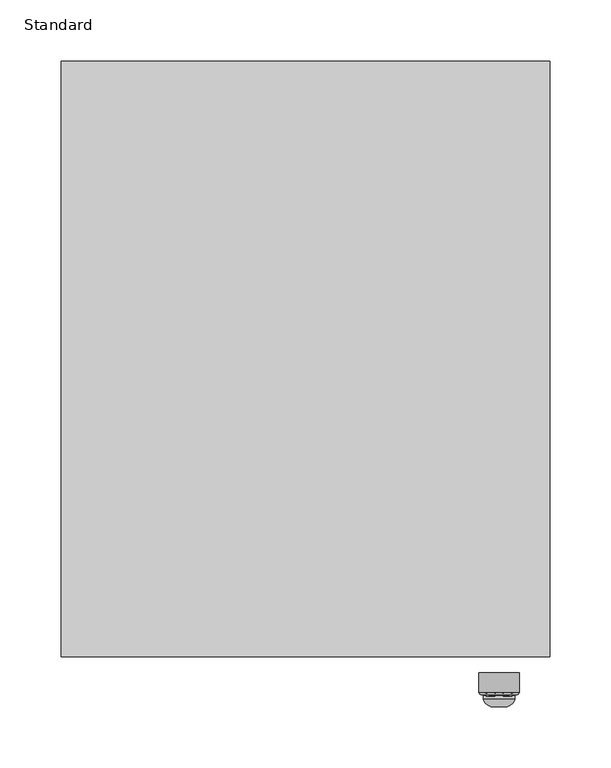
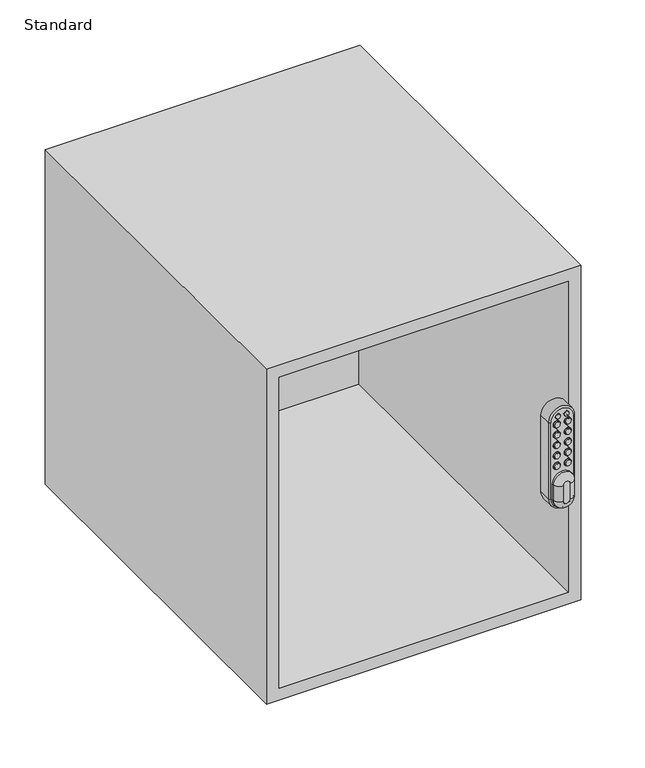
"""IFC4 building model written with IfcOpenShell, lengths in millimetres: furniture geometry, X_Locker-Duracube-Bay : Standard."""

from ifc_helpers import new_model, si_unit, point, frame, frame_2d, origin, place, context, project, spatial, polyline, circle_curve, ellipse_curve, trimmed, segment, composite_curve, outline, extrude, faceted_brep, source, transform, mapped, element, save
from ifc_brep_helpers import plane_surface, cylinder_surface, revolved_surface, advanced_brep


def standard_e2bbb5fc(model_context):
    return source(origin(), model_context, "Body", "SolidModel", [
        advanced_brep(
        [(207.7003264, -527.5, 173.5), (207.7003264, -527.5, 194.5), (198.7003264, -527.5, 194.5), (198.7003264, -527.5, 173.5), (216.2003264, -519.0, 194.5), (216.2003264, -519.0, 173.5), (190.2003264, -519.0, 173.5), (190.2003264, -519.0, 194.5), (207.7003264, -528.0, 173.5), (216.2003264, -522.0, 173.5), (216.2003264, -522.0, 194.5), (207.7003264, -528.0, 194.5), (190.2003264, -522.0, 194.5), (198.7003264, -528.0, 194.5), (190.2003264, -522.0, 173.5), (198.7003264, -528.0, 173.5)],
        [
            (0, 1),
            (1, 2, circle_curve(frame((203.2003264, -527.5, 194.5), z_axis=(0.0, -1.0, 0.0), x_axis=(1.0, 0.0, 0.0)), 4.5)),
            (2, 3),
            (3, 0, circle_curve(frame((203.2003264, -527.5, 173.5), z_axis=(0.0, -1.0, 0.0), x_axis=(-1.0, 0.0, 0.0)), 4.5)),
            (4, 5),
            (5, 6, circle_curve(frame((203.2003264, -519.0, 173.5), z_axis=(0.0, 1.0, 0.0), x_axis=(-1.0, 0.0, 0.0)), 13.0)),
            (6, 7),
            (7, 4, circle_curve(frame((203.2003264, -519.0, 194.5), z_axis=(0.0, 1.0, 0.0), x_axis=(1.0, 0.0, 0.0)), 13.0)),
            (8, 9, circle_curve(frame((207.7003264, -518.9791667, 173.5), z_axis=(0.0, 0.0, 1.0), x_axis=(-1.0, 0.0, 0.0)), 9.0208333)),
            (9, 10),
            (10, 11, circle_curve(frame((207.7003264, -518.9791667, 194.5), z_axis=(0.0, 0.0, -1.0), x_axis=(-1.0, 0.0, 0.0)), 9.0208333)),
            (11, 8),
            (11, 1),
            (0, 8),
            (9, 5),
            (4, 10),
            (10, 12, circle_curve(frame((203.2003264, -522.0, 194.5), z_axis=(0.0, -1.0, 0.0), x_axis=(1.0, 0.0, 0.0)), 13.0)),
            (12, 13, circle_curve(frame((198.7003264, -518.9791667, 194.5), z_axis=(0.0, 0.0, 1.0), x_axis=(1.0, 0.0, 0.0)), 9.0208333)),
            (13, 11, circle_curve(frame((203.2003264, -528.0, 194.5), z_axis=(0.0, 1.0, 0.0), x_axis=(1.0, 0.0, 0.0)), 4.5)),
            (13, 2),
            (7, 12),
            (12, 14),
            (14, 15, circle_curve(frame((198.7003264, -518.9791667, 173.5), z_axis=(0.0, 0.0, 1.0), x_axis=(1.0, 0.0, 0.0)), 9.0208333)),
            (15, 13),
            (15, 3),
            (6, 14),
            (8, 15, circle_curve(frame((203.2003264, -528.0, 173.5), z_axis=(0.0, 1.0, 0.0), x_axis=(-1.0, 0.0, 0.0)), 4.5)),
            (14, 9, circle_curve(frame((203.2003264, -522.0, 173.5), z_axis=(0.0, -1.0, 0.0), x_axis=(-1.0, 0.0, 0.0)), 13.0)),
        ],
        [
            plane_surface(frame((198.7003264, -527.5, 169.0), z_axis=(0.0, -1.0, 0.0), x_axis=(0.0, 0.0, -1.0))),
            plane_surface(frame((198.7003264, -519.0, 169.0), z_axis=(0.0, 1.0, 0.0), x_axis=(0.0, 0.0, 1.0))),
            cylinder_surface(frame((207.7003264, -518.9791667, 173.5), z_axis=(0.0, 0.0, -1.0), x_axis=(-1.0, 0.0, 0.0)), 9.0208333),
            plane_surface(frame((207.7003264, -528.0, 173.5), z_axis=(-1.0, 0.0, 0.0), x_axis=(0.0, 0.0, 1.0))),
            plane_surface(frame((216.2003264, -519.0, 173.5), z_axis=(1.0, 0.0, 0.0), x_axis=(0.0, 0.0, 1.0))),
            revolved_surface(trimmed(ellipse_curve(frame((207.7003264, -518.9791667, 194.5), z_axis=(0.0, 0.0, -1.0), x_axis=(-1.0, 0.0, 0.0)), 9.0208333, 9.0208333), [point((216.2003264, -522.0, 194.5))], [point((207.7003264, -528.0, 194.5))], True, "CARTESIAN"), (203.2003264, -500.0, 194.5), (0.0, -1.0, 0.0)),
            revolved_surface(polyline([(207.7003264, -528.0, 194.5), (207.7003264, -527.5, 194.5)]), (203.2003264, -500.0, 194.5), (0.0, -1.0, 0.0)),
            cylinder_surface(frame((203.2003264, -500.0, 194.5), z_axis=(0.0, -1.0, 0.0), x_axis=(1.0, 0.0, 0.0)), 13.0),
            cylinder_surface(frame((198.7003264, -518.9791667, 194.5), z_axis=(0.0, 0.0, 1.0), x_axis=(1.0, 0.0, 0.0)), 9.0208333),
            plane_surface(frame((198.7003264, -528.0, 194.5), z_axis=(1.0, 0.0, 0.0), x_axis=(0.0, 0.0, -1.0))),
            plane_surface(frame((190.2003264, -519.0, 194.5), z_axis=(-1.0, 0.0, 0.0), x_axis=(0.0, 0.0, -1.0))),
            revolved_surface(trimmed(ellipse_curve(frame((198.7003264, -518.9791667, 173.5), z_axis=(0.0, 0.0, 1.0), x_axis=(1.0, 0.0, 0.0)), 9.0208333, 9.0208333), [point((190.2003264, -522.0, 173.5))], [point((198.7003264, -528.0, 173.5))], True, "CARTESIAN"), (203.2003264, -500.0, 173.5), (0.0, -1.0, 0.0)),
            revolved_surface(polyline([(198.7003264, -528.0, 173.5), (198.7003264, -527.5, 173.5)]), (203.2003264, -500.0, 173.5), (0.0, -1.0, 0.0)),
            cylinder_surface(frame((203.2003264, -500.0, 173.5), z_axis=(0.0, -1.0, 0.0), x_axis=(-1.0, 0.0, 0.0)), 13.0),
        ],
        [
            (0, [[1, 2, 3, 4]]),
            (1, [[5, 6, 7, 8]]),
            (2, [[9, 10, 11, 12]]),
            (3, [[-12, 13, -1, 14]]),
            (4, [[-10, 15, -5, 16]]),
            (5, [[-11, 17, 18, 19]]),
            (6, [[-19, 20, -2, -13]]),
            (7, [[-16, -8, 21, -17]]),
            (8, [[-18, 22, 23, 24]]),
            (9, [[-24, 25, -3, -20]]),
            (10, [[-21, -7, 26, -22]]),
            (11, [[-9, 27, -23, 28]]),
            (12, [[-27, -14, -4, -25]]),
            (13, [[-15, -28, -26, -6]]),
        ],
    ),
        extrude(outline(composite_curve([segment(trimmed(circle_curve(frame_2d((282.0, 197.7003264)), 3.0), [point((282.0, 200.7003264))], [point((282.0, 194.7003264))], False, "CARTESIAN"), True, "CONTINUOUS"), segment(trimmed(circle_curve(frame_2d((282.0, 197.7003264)), 3.0), [point((282.0, 194.7003264))], [point((282.0, 200.7003264))], False, "CARTESIAN"), True, "CONTINUOUS")], self_intersect=False)), frame((0.0, -518.5, 0.0), z_axis=(0.0, 1.0, 0.0), x_axis=(0.0, 0.0, 1.0)), (0.0, 0.0, 1.0), 18.5),
        extrude(outline(composite_curve([segment(trimmed(circle_curve(frame_2d((282.0, 208.7003264)), 3.0), [point((282.0, 205.7003264))], [point((282.0, 211.7003264))], False, "CARTESIAN"), True, "CONTINUOUS"), segment(trimmed(circle_curve(frame_2d((282.0, 208.7003264)), 3.0), [point((282.0, 211.7003264))], [point((282.0, 205.7003264))], False, "CARTESIAN"), True, "CONTINUOUS")], self_intersect=False)), frame((0.0, -518.5, 0.0), z_axis=(0.0, 1.0, 0.0), x_axis=(0.0, 0.0, 1.0)), (0.0, 0.0, 1.0), 18.5),
        extrude(outline(composite_curve([segment(trimmed(circle_curve(frame_2d((216.0, 210.2003264)), 3.5), [point((216.0, 206.7003264))], [point((216.0, 213.7003264))], False, "CARTESIAN"), True, "CONTINUOUS"), segment(trimmed(circle_curve(frame_2d((216.0, 210.2003264)), 3.5), [point((216.0, 213.7003264))], [point((216.0, 206.7003264))], False, "CARTESIAN"), True, "CONTINUOUS")], self_intersect=False)), frame((0.0, -519.5, 0.0), z_axis=(0.0, 1.0, 0.0), x_axis=(0.0, 0.0, 1.0)), (0.0, 0.0, 1.0), 2.0),
        extrude(outline(composite_curve([segment(trimmed(circle_curve(frame_2d((216.0, 196.2003264)), 3.5), [point((216.0, 192.7003264))], [point((216.0, 199.7003264))], False, "CARTESIAN"), True, "CONTINUOUS"), segment(trimmed(circle_curve(frame_2d((216.0, 196.2003264)), 3.5), [point((216.0, 199.7003264))], [point((216.0, 192.7003264))], False, "CARTESIAN"), True, "CONTINUOUS")], self_intersect=False)), frame((0.0, -519.5, 0.0), z_axis=(0.0, 1.0, 0.0), x_axis=(0.0, 0.0, 1.0)), (0.0, 0.0, 1.0), 2.0),
        extrude(outline(composite_curve([segment(trimmed(circle_curve(frame_2d((230.0, 210.2003264)), 3.5), [point((230.0, 206.7003264))], [point((230.0, 213.7003264))], False, "CARTESIAN"), True, "CONTINUOUS"), segment(trimmed(circle_curve(frame_2d((230.0, 210.2003264)), 3.5), [point((230.0, 213.7003264))], [point((230.0, 206.7003264))], False, "CARTESIAN"), True, "CONTINUOUS")], self_intersect=False)), frame((0.0, -519.5, 0.0), z_axis=(0.0, 1.0, 0.0), x_axis=(0.0, 0.0, 1.0)), (0.0, 0.0, 1.0), 2.0),
        extrude(outline(composite_curve([segment(trimmed(circle_curve(frame_2d((230.0, 196.2003264)), 3.5), [point((230.0, 192.7003264))], [point((230.0, 199.7003264))], False, "CARTESIAN"), True, "CONTINUOUS"), segment(trimmed(circle_curve(frame_2d((230.0, 196.2003264)), 3.5), [point((230.0, 199.7003264))], [point((230.0, 192.7003264))], False, "CARTESIAN"), True, "CONTINUOUS")], self_intersect=False)), frame((0.0, -519.5, 0.0), z_axis=(0.0, 1.0, 0.0), x_axis=(0.0, 0.0, 1.0)), (0.0, 0.0, 1.0), 2.0),
        extrude(outline(composite_curve([segment(trimmed(circle_curve(frame_2d((244.0, 210.2003264)), 3.5), [point((244.0, 206.7003264))], [point((244.0, 213.7003264))], False, "CARTESIAN"), True, "CONTINUOUS"), segment(trimmed(circle_curve(frame_2d((244.0, 210.2003264)), 3.5), [point((244.0, 213.7003264))], [point((244.0, 206.7003264))], False, "CARTESIAN"), True, "CONTINUOUS")], self_intersect=False)), frame((0.0, -519.5, 0.0), z_axis=(0.0, 1.0, 0.0), x_axis=(0.0, 0.0, 1.0)), (0.0, 0.0, 1.0), 2.0),
        extrude(outline(composite_curve([segment(trimmed(circle_curve(frame_2d((244.0, 196.2003264)), 3.5), [point((244.0, 192.7003264))], [point((244.0, 199.7003264))], False, "CARTESIAN"), True, "CONTINUOUS"), segment(trimmed(circle_curve(frame_2d((244.0, 196.2003264)), 3.5), [point((244.0, 199.7003264))], [point((244.0, 192.7003264))], False, "CARTESIAN"), True, "CONTINUOUS")], self_intersect=False)), frame((0.0, -519.5, 0.0), z_axis=(0.0, 1.0, 0.0), x_axis=(0.0, 0.0, 1.0)), (0.0, 0.0, 1.0), 2.0),
        extrude(outline(composite_curve([segment(trimmed(circle_curve(frame_2d((258.0, 210.2003264)), 3.5), [point((258.0, 206.7003264))], [point((258.0, 213.7003264))], False, "CARTESIAN"), True, "CONTINUOUS"), segment(trimmed(circle_curve(frame_2d((258.0, 210.2003264)), 3.5), [point((258.0, 213.7003264))], [point((258.0, 206.7003264))], False, "CARTESIAN"), True, "CONTINUOUS")], self_intersect=False)), frame((0.0, -519.5, 0.0), z_axis=(0.0, 1.0, 0.0), x_axis=(0.0, 0.0, 1.0)), (0.0, 0.0, 1.0), 2.0),
        extrude(outline(composite_curve([segment(trimmed(circle_curve(frame_2d((258.0, 196.2003264)), 3.5), [point((258.0, 192.7003264))], [point((258.0, 199.7003264))], False, "CARTESIAN"), True, "CONTINUOUS"), segment(trimmed(circle_curve(frame_2d((258.0, 196.2003264)), 3.5), [point((258.0, 199.7003264))], [point((258.0, 192.7003264))], False, "CARTESIAN"), True, "CONTINUOUS")], self_intersect=False)), frame((0.0, -519.5, 0.0), z_axis=(0.0, 1.0, 0.0), x_axis=(0.0, 0.0, 1.0)), (0.0, 0.0, 1.0), 2.0),
        extrude(outline(composite_curve([segment(trimmed(circle_curve(frame_2d((272.0, 210.2003264)), 3.5), [point((272.0, 206.7003264))], [point((272.0, 213.7003264))], False, "CARTESIAN"), True, "CONTINUOUS"), segment(trimmed(circle_curve(frame_2d((272.0, 210.2003264)), 3.5), [point((272.0, 213.7003264))], [point((272.0, 206.7003264))], False, "CARTESIAN"), True, "CONTINUOUS")], self_intersect=False)), frame((0.0, -519.5, 0.0), z_axis=(0.0, 1.0, 0.0), x_axis=(0.0, 0.0, 1.0)), (0.0, 0.0, 1.0), 2.0),
        extrude(outline(composite_curve([segment(trimmed(circle_curve(frame_2d((272.0, 196.2003264)), 3.5), [point((272.0, 192.7003264))], [point((272.0, 199.7003264))], False, "CARTESIAN"), True, "CONTINUOUS"), segment(trimmed(circle_curve(frame_2d((272.0, 196.2003264)), 3.5), [point((272.0, 199.7003264))], [point((272.0, 192.7003264))], False, "CARTESIAN"), True, "CONTINUOUS")], self_intersect=False)), frame((0.0, -519.5, 0.0), z_axis=(0.0, 1.0, 0.0), x_axis=(0.0, 0.0, 1.0)), (0.0, 0.0, 1.0), 2.0),
        advanced_brep(
        [(210.2003264, -500.0, 272.0), (210.2003264, -500.0, 276.5), (210.2003264, -500.0, 267.5), (210.2003264, -517.5, 276.5), (210.2003264, -517.5, 267.5), (210.2003264, -517.0, 272.0)],
        [
            (0, 1),
            (1, 2, circle_curve(frame((210.2003264, -500.0, 272.0), z_axis=(0.0, 1.0, 0.0), x_axis=(0.0, 0.0, 1.0)), 4.5)),
            (2, 0),
            (2, 1, circle_curve(frame((210.2003264, -500.0, 272.0), z_axis=(0.0, 1.0, 0.0), x_axis=(0.0, 0.0, 1.0)), 4.5)),
            (1, 3),
            (3, 4, circle_curve(frame((210.2003264, -517.5, 272.0), z_axis=(0.0, 1.0, 0.0), x_axis=(0.0, 0.0, 1.0)), 4.5)),
            (4, 2),
            (4, 3, circle_curve(frame((210.2003264, -517.5, 272.0), z_axis=(0.0, 1.0, 0.0), x_axis=(0.0, 0.0, 1.0)), 4.5)),
            (3, 5),
            (5, 4),
        ],
        [
            plane_surface(frame((210.2003264, -500.0, 272.0), z_axis=(0.0, 1.0, 0.0), x_axis=(0.0, 0.0, 1.0))),
            cylinder_surface(frame((210.2003264, -500.0, 272.0), z_axis=(0.0, 1.0, 0.0), x_axis=(0.0, 0.0, 1.0)), 4.5),
            revolved_surface(polyline([(210.2003264, -517.0, 272.0), (210.2003264, -517.5, 276.5)]), (210.2003264, -500.0, 272.0), (0.0, 1.0, 0.0)),
        ],
        [
            (0, [[1, 2, 3]]),
            (0, [[-3, 4, -1]]),
            (1, [[-2, 5, 6, 7]]),
            (1, [[-4, -7, 8, -5]]),
            (2, [[-6, 9, 10]]),
            (2, [[-8, -10, -9]]),
        ],
    ),
        advanced_brep(
        [(210.2003264, -500.0, 258.0), (210.2003264, -500.0, 262.5), (210.2003264, -500.0, 253.5), (210.2003264, -517.5, 262.5), (210.2003264, -517.5, 253.5), (210.2003264, -517.0, 258.0)],
        [
            (0, 1),
            (1, 2, circle_curve(frame((210.2003264, -500.0, 258.0), z_axis=(0.0, 1.0, 0.0), x_axis=(0.0, 0.0, 1.0)), 4.5)),
            (2, 0),
            (2, 1, circle_curve(frame((210.2003264, -500.0, 258.0), z_axis=(0.0, 1.0, 0.0), x_axis=(0.0, 0.0, 1.0)), 4.5)),
            (1, 3),
            (3, 4, circle_curve(frame((210.2003264, -517.5, 258.0), z_axis=(0.0, 1.0, 0.0), x_axis=(0.0, 0.0, 1.0)), 4.5)),
            (4, 2),
            (4, 3, circle_curve(frame((210.2003264, -517.5, 258.0), z_axis=(0.0, 1.0, 0.0), x_axis=(0.0, 0.0, 1.0)), 4.5)),
            (3, 5),
            (5, 4),
        ],
        [
            plane_surface(frame((210.2003264, -500.0, 258.0), z_axis=(0.0, 1.0, 0.0), x_axis=(0.0, 0.0, 1.0))),
            cylinder_surface(frame((210.2003264, -500.0, 258.0), z_axis=(0.0, 1.0, 0.0), x_axis=(0.0, 0.0, 1.0)), 4.5),
            revolved_surface(polyline([(210.2003264, -517.0, 258.0), (210.2003264, -517.5, 262.5)]), (210.2003264, -500.0, 258.0), (0.0, 1.0, 0.0)),
        ],
        [
            (0, [[1, 2, 3]]),
            (0, [[-3, 4, -1]]),
            (1, [[-2, 5, 6, 7]]),
            (1, [[-4, -7, 8, -5]]),
            (2, [[-6, 9, 10]]),
            (2, [[-8, -10, -9]]),
        ],
    ),
        advanced_brep(
        [(210.2003264, -500.0, 244.0), (210.2003264, -500.0, 248.5), (210.2003264, -500.0, 239.5), (210.2003264, -517.5, 248.5), (210.2003264, -517.5, 239.5), (210.2003264, -517.0, 244.0)],
        [
            (0, 1),
            (1, 2, circle_curve(frame((210.2003264, -500.0, 244.0), z_axis=(0.0, 1.0, 0.0), x_axis=(0.0, 0.0, 1.0)), 4.5)),
            (2, 0),
            (2, 1, circle_curve(frame((210.2003264, -500.0, 244.0), z_axis=(0.0, 1.0, 0.0), x_axis=(0.0, 0.0, 1.0)), 4.5)),
            (1, 3),
            (3, 4, circle_curve(frame((210.2003264, -517.5, 244.0), z_axis=(0.0, 1.0, 0.0), x_axis=(0.0, 0.0, 1.0)), 4.5)),
            (4, 2),
            (4, 3, circle_curve(frame((210.2003264, -517.5, 244.0), z_axis=(0.0, 1.0, 0.0), x_axis=(0.0, 0.0, 1.0)), 4.5)),
            (3, 5),
            (5, 4),
        ],
        [
            plane_surface(frame((210.2003264, -500.0, 244.0), z_axis=(0.0, 1.0, 0.0), x_axis=(0.0, 0.0, 1.0))),
            cylinder_surface(frame((210.2003264, -500.0, 244.0), z_axis=(0.0, 1.0, 0.0), x_axis=(0.0, 0.0, 1.0)), 4.5),
            revolved_surface(polyline([(210.2003264, -517.0, 244.0), (210.2003264, -517.5, 248.5)]), (210.2003264, -500.0, 244.0), (0.0, 1.0, 0.0)),
        ],
        [
            (0, [[1, 2, 3]]),
            (0, [[-3, 4, -1]]),
            (1, [[-2, 5, 6, 7]]),
            (1, [[-4, -7, 8, -5]]),
            (2, [[-6, 9, 10]]),
            (2, [[-8, -10, -9]]),
        ],
    ),
        advanced_brep(
        [(210.2003264, -500.0, 230.0), (210.2003264, -500.0, 234.5), (210.2003264, -500.0, 225.5), (210.2003264, -517.5, 234.5), (210.2003264, -517.5, 225.5), (210.2003264, -517.0, 230.0)],
        [
            (0, 1),
            (1, 2, circle_curve(frame((210.2003264, -500.0, 230.0), z_axis=(0.0, 1.0, 0.0), x_axis=(0.0, 0.0, 1.0)), 4.5)),
            (2, 0),
            (2, 1, circle_curve(frame((210.2003264, -500.0, 230.0), z_axis=(0.0, 1.0, 0.0), x_axis=(0.0, 0.0, 1.0)), 4.5)),
            (1, 3),
            (3, 4, circle_curve(frame((210.2003264, -517.5, 230.0), z_axis=(0.0, 1.0, 0.0), x_axis=(0.0, 0.0, 1.0)), 4.5)),
            (4, 2),
            (4, 3, circle_curve(frame((210.2003264, -517.5, 230.0), z_axis=(0.0, 1.0, 0.0), x_axis=(0.0, 0.0, 1.0)), 4.5)),
            (3, 5),
            (5, 4),
        ],
        [
            plane_surface(frame((210.2003264, -500.0, 230.0), z_axis=(0.0, 1.0, 0.0), x_axis=(0.0, 0.0, 1.0))),
            cylinder_surface(frame((210.2003264, -500.0, 230.0), z_axis=(0.0, 1.0, 0.0), x_axis=(0.0, 0.0, 1.0)), 4.5),
            revolved_surface(polyline([(210.2003264, -517.0, 230.0), (210.2003264, -517.5, 234.5)]), (210.2003264, -500.0, 230.0), (0.0, 1.0, 0.0)),
        ],
        [
            (0, [[1, 2, 3]]),
            (0, [[-3, 4, -1]]),
            (1, [[-2, 5, 6, 7]]),
            (1, [[-4, -7, 8, -5]]),
            (2, [[-6, 9, 10]]),
            (2, [[-8, -10, -9]]),
        ],
    ),
        advanced_brep(
        [(210.2003264, -500.0, 216.0), (210.2003264, -500.0, 220.5), (210.2003264, -500.0, 211.5), (210.2003264, -517.5, 220.5), (210.2003264, -517.5, 211.5), (210.2003264, -517.0, 216.0)],
        [
            (0, 1),
            (1, 2, circle_curve(frame((210.2003264, -500.0, 216.0), z_axis=(0.0, 1.0, 0.0), x_axis=(0.0, 0.0, 1.0)), 4.5)),
            (2, 0),
            (2, 1, circle_curve(frame((210.2003264, -500.0, 216.0), z_axis=(0.0, 1.0, 0.0), x_axis=(0.0, 0.0, 1.0)), 4.5)),
            (1, 3),
            (3, 4, circle_curve(frame((210.2003264, -517.5, 216.0), z_axis=(0.0, 1.0, 0.0), x_axis=(0.0, 0.0, 1.0)), 4.5)),
            (4, 2),
            (4, 3, circle_curve(frame((210.2003264, -517.5, 216.0), z_axis=(0.0, 1.0, 0.0), x_axis=(0.0, 0.0, 1.0)), 4.5)),
            (3, 5),
            (5, 4),
        ],
        [
            plane_surface(frame((210.2003264, -500.0, 216.0), z_axis=(0.0, 1.0, 0.0), x_axis=(0.0, 0.0, 1.0))),
            cylinder_surface(frame((210.2003264, -500.0, 216.0), z_axis=(0.0, 1.0, 0.0), x_axis=(0.0, 0.0, 1.0)), 4.5),
            revolved_surface(polyline([(210.2003264, -517.0, 216.0), (210.2003264, -517.5, 220.5)]), (210.2003264, -500.0, 216.0), (0.0, 1.0, 0.0)),
        ],
        [
            (0, [[1, 2, 3]]),
            (0, [[-3, 4, -1]]),
            (1, [[-2, 5, 6, 7]]),
            (1, [[-4, -7, 8, -5]]),
            (2, [[-6, 9, 10]]),
            (2, [[-8, -10, -9]]),
        ],
    ),
        advanced_brep(
        [(196.2003264, -500.0, 267.5), (196.2003264, -500.0, 276.5), (196.2003264, -500.0, 272.0), (196.2003264, -517.5, 267.5), (196.2003264, -517.5, 276.5), (196.2003264, -517.0, 272.0)],
        [
            (0, 1, circle_curve(frame((196.2003264, -500.0, 272.0), z_axis=(0.0, 1.0, 0.0), x_axis=(0.0, 0.0, 1.0)), 4.5)),
            (1, 2),
            (2, 0),
            (1, 0, circle_curve(frame((196.2003264, -500.0, 272.0), z_axis=(0.0, 1.0, 0.0), x_axis=(0.0, 0.0, 1.0)), 4.5)),
            (3, 4, circle_curve(frame((196.2003264, -517.5, 272.0), z_axis=(0.0, 1.0, 0.0), x_axis=(0.0, 0.0, 1.0)), 4.5)),
            (4, 1),
            (0, 3),
            (4, 3, circle_curve(frame((196.2003264, -517.5, 272.0), z_axis=(0.0, 1.0, 0.0), x_axis=(0.0, 0.0, 1.0)), 4.5)),
            (5, 4),
            (3, 5),
        ],
        [
            plane_surface(frame((196.2003264, -500.0, 272.0), z_axis=(0.0, 1.0, 0.0), x_axis=(0.0, 0.0, 1.0))),
            cylinder_surface(frame((196.2003264, -500.0, 272.0), z_axis=(0.0, -1.0, 0.0), x_axis=(0.0, 0.0, 1.0)), 4.5),
            revolved_surface(polyline([(196.2003264, -517.5, 276.5), (196.2003264, -517.0, 272.0)]), (196.2003264, -500.0, 272.0), (0.0, -1.0, 0.0)),
        ],
        [
            (0, [[1, 2, 3]]),
            (0, [[4, -3, -2]]),
            (1, [[5, 6, -1, 7]]),
            (1, [[8, -7, -4, -6]]),
            (2, [[9, -5, 10]]),
            (2, [[-10, -8, -9]]),
        ],
    ),
        advanced_brep(
        [(196.2003264, -500.0, 253.5), (196.2003264, -500.0, 262.5), (196.2003264, -500.0, 258.0), (196.2003264, -517.5, 253.5), (196.2003264, -517.5, 262.5), (196.2003264, -517.0, 258.0)],
        [
            (0, 1, circle_curve(frame((196.2003264, -500.0, 258.0), z_axis=(0.0, 1.0, 0.0), x_axis=(0.0, 0.0, 1.0)), 4.5)),
            (1, 2),
            (2, 0),
            (1, 0, circle_curve(frame((196.2003264, -500.0, 258.0), z_axis=(0.0, 1.0, 0.0), x_axis=(0.0, 0.0, 1.0)), 4.5)),
            (3, 4, circle_curve(frame((196.2003264, -517.5, 258.0), z_axis=(0.0, 1.0, 0.0), x_axis=(0.0, 0.0, 1.0)), 4.5)),
            (4, 1),
            (0, 3),
            (4, 3, circle_curve(frame((196.2003264, -517.5, 258.0), z_axis=(0.0, 1.0, 0.0), x_axis=(0.0, 0.0, 1.0)), 4.5)),
            (5, 4),
            (3, 5),
        ],
        [
            plane_surface(frame((196.2003264, -500.0, 258.0), z_axis=(0.0, 1.0, 0.0), x_axis=(0.0, 0.0, 1.0))),
            cylinder_surface(frame((196.2003264, -500.0, 258.0), z_axis=(0.0, -1.0, 0.0), x_axis=(0.0, 0.0, 1.0)), 4.5),
            revolved_surface(polyline([(196.2003264, -517.5, 262.5), (196.2003264, -517.0, 258.0)]), (196.2003264, -500.0, 258.0), (0.0, -1.0, 0.0)),
        ],
        [
            (0, [[1, 2, 3]]),
            (0, [[4, -3, -2]]),
            (1, [[5, 6, -1, 7]]),
            (1, [[8, -7, -4, -6]]),
            (2, [[9, -5, 10]]),
            (2, [[-10, -8, -9]]),
        ],
    ),
        advanced_brep(
        [(196.2003264, -500.0, 239.5), (196.2003264, -500.0, 248.5), (196.2003264, -500.0, 244.0), (196.2003264, -517.5, 239.5), (196.2003264, -517.5, 248.5), (196.2003264, -517.0, 244.0)],
        [
            (0, 1, circle_curve(frame((196.2003264, -500.0, 244.0), z_axis=(0.0, 1.0, 0.0), x_axis=(0.0, 0.0, 1.0)), 4.5)),
            (1, 2),
            (2, 0),
            (1, 0, circle_curve(frame((196.2003264, -500.0, 244.0), z_axis=(0.0, 1.0, 0.0), x_axis=(0.0, 0.0, 1.0)), 4.5)),
            (3, 4, circle_curve(frame((196.2003264, -517.5, 244.0), z_axis=(0.0, 1.0, 0.0), x_axis=(0.0, 0.0, 1.0)), 4.5)),
            (4, 1),
            (0, 3),
            (4, 3, circle_curve(frame((196.2003264, -517.5, 244.0), z_axis=(0.0, 1.0, 0.0), x_axis=(0.0, 0.0, 1.0)), 4.5)),
            (5, 4),
            (3, 5),
        ],
        [
            plane_surface(frame((196.2003264, -500.0, 244.0), z_axis=(0.0, 1.0, 0.0), x_axis=(0.0, 0.0, 1.0))),
            cylinder_surface(frame((196.2003264, -500.0, 244.0), z_axis=(0.0, -1.0, 0.0), x_axis=(0.0, 0.0, 1.0)), 4.5),
            revolved_surface(polyline([(196.2003264, -517.5, 248.5), (196.2003264, -517.0, 244.0)]), (196.2003264, -500.0, 244.0), (0.0, -1.0, 0.0)),
        ],
        [
            (0, [[1, 2, 3]]),
            (0, [[4, -3, -2]]),
            (1, [[5, 6, -1, 7]]),
            (1, [[8, -7, -4, -6]]),
            (2, [[9, -5, 10]]),
            (2, [[-10, -8, -9]]),
        ],
    ),
        advanced_brep(
        [(196.2003264, -500.0, 225.5), (196.2003264, -500.0, 234.5), (196.2003264, -500.0, 230.0), (196.2003264, -517.5, 225.5), (196.2003264, -517.5, 234.5), (196.2003264, -517.0, 230.0)],
        [
            (0, 1, circle_curve(frame((196.2003264, -500.0, 230.0), z_axis=(0.0, 1.0, 0.0), x_axis=(0.0, 0.0, 1.0)), 4.5)),
            (1, 2),
            (2, 0),
            (1, 0, circle_curve(frame((196.2003264, -500.0, 230.0), z_axis=(0.0, 1.0, 0.0), x_axis=(0.0, 0.0, 1.0)), 4.5)),
            (3, 4, circle_curve(frame((196.2003264, -517.5, 230.0), z_axis=(0.0, 1.0, 0.0), x_axis=(0.0, 0.0, 1.0)), 4.5)),
            (4, 1),
            (0, 3),
            (4, 3, circle_curve(frame((196.2003264, -517.5, 230.0), z_axis=(0.0, 1.0, 0.0), x_axis=(0.0, 0.0, 1.0)), 4.5)),
            (5, 4),
            (3, 5),
        ],
        [
            plane_surface(frame((196.2003264, -500.0, 230.0), z_axis=(0.0, 1.0, 0.0), x_axis=(0.0, 0.0, 1.0))),
            cylinder_surface(frame((196.2003264, -500.0, 230.0), z_axis=(0.0, -1.0, 0.0), x_axis=(0.0, 0.0, 1.0)), 4.5),
            revolved_surface(polyline([(196.2003264, -517.5, 234.5), (196.2003264, -517.0, 230.0)]), (196.2003264, -500.0, 230.0), (0.0, -1.0, 0.0)),
        ],
        [
            (0, [[1, 2, 3]]),
            (0, [[4, -3, -2]]),
            (1, [[5, 6, -1, 7]]),
            (1, [[8, -7, -4, -6]]),
            (2, [[9, -5, 10]]),
            (2, [[-10, -8, -9]]),
        ],
    ),
        advanced_brep(
        [(196.2003264, -500.0, 211.5), (196.2003264, -500.0, 220.5), (196.2003264, -500.0, 216.0), (196.2003264, -517.5, 211.5), (196.2003264, -517.5, 220.5), (196.2003264, -517.0, 216.0)],
        [
            (0, 1, circle_curve(frame((196.2003264, -500.0, 216.0), z_axis=(0.0, 1.0, 0.0), x_axis=(0.0, 0.0, 1.0)), 4.5)),
            (1, 2),
            (2, 0),
            (1, 0, circle_curve(frame((196.2003264, -500.0, 216.0), z_axis=(0.0, 1.0, 0.0), x_axis=(0.0, 0.0, 1.0)), 4.5)),
            (3, 4, circle_curve(frame((196.2003264, -517.5, 216.0), z_axis=(0.0, 1.0, 0.0), x_axis=(0.0, 0.0, 1.0)), 4.5)),
            (4, 1),
            (0, 3),
            (4, 3, circle_curve(frame((196.2003264, -517.5, 216.0), z_axis=(0.0, 1.0, 0.0), x_axis=(0.0, 0.0, 1.0)), 4.5)),
            (5, 4),
            (3, 5),
        ],
        [
            plane_surface(frame((196.2003264, -500.0, 216.0), z_axis=(0.0, 1.0, 0.0), x_axis=(0.0, 0.0, 1.0))),
            cylinder_surface(frame((196.2003264, -500.0, 216.0), z_axis=(0.0, -1.0, 0.0), x_axis=(0.0, 0.0, 1.0)), 4.5),
            revolved_surface(polyline([(196.2003264, -517.5, 220.5), (196.2003264, -517.0, 216.0)]), (196.2003264, -500.0, 216.0), (0.0, -1.0, 0.0)),
        ],
        [
            (0, [[1, 2, 3]]),
            (0, [[4, -3, -2]]),
            (1, [[5, 6, -1, 7]]),
            (1, [[8, -7, -4, -6]]),
            (2, [[9, -5, 10]]),
            (2, [[-10, -8, -9]]),
        ],
    ),
        advanced_brep(
        [(219.7003264, -500.0, 276.5), (219.7003264, -516.0, 276.5), (219.7003264, -516.0, 173.5), (219.7003264, -500.0, 173.5), (217.7003264, -518.0, 276.5), (217.7003264, -518.0, 173.5), (186.7003264, -500.0, 276.5), (186.7003264, -516.0, 276.5), (188.7003264, -518.0, 276.5), (186.7003264, -516.0, 173.5), (186.7003264, -500.0, 173.5), (188.7003264, -518.0, 173.5), (205.7003264, -500.0, 244.0), (214.7003264, -500.0, 244.0), (205.7003264, -500.0, 216.0), (214.7003264, -500.0, 216.0), (205.7003264, -500.0, 258.0), (214.7003264, -500.0, 258.0), (205.7003264, -500.0, 282.0), (211.7003264, -500.0, 282.0), (194.7003264, -500.0, 282.0), (200.7003264, -500.0, 282.0), (191.7003264, -500.0, 272.0), (200.7003264, -500.0, 272.0), (191.7003264, -500.0, 244.0), (200.7003264, -500.0, 244.0), (191.7003264, -500.0, 230.0), (200.7003264, -500.0, 230.0), (191.7003264, -500.0, 216.0), (200.7003264, -500.0, 216.0), (191.7003264, -500.0, 258.0), (200.7003264, -500.0, 258.0), (205.7003264, -500.0, 272.0), (214.7003264, -500.0, 272.0), (205.7003264, -500.0, 230.0), (214.7003264, -500.0, 230.0), (191.7003264, -518.0, 272.0), (200.7003264, -518.0, 272.0), (191.7003264, -518.0, 258.0), (200.7003264, -518.0, 258.0), (191.7003264, -518.0, 244.0), (200.7003264, -518.0, 244.0), (191.7003264, -518.0, 230.0), (200.7003264, -518.0, 230.0), (191.7003264, -518.0, 216.0), (200.7003264, -518.0, 216.0), (205.7003264, -518.0, 272.0), (214.7003264, -518.0, 272.0), (205.7003264, -518.0, 258.0), (214.7003264, -518.0, 258.0), (205.7003264, -518.0, 244.0), (214.7003264, -518.0, 244.0), (205.7003264, -518.0, 230.0), (214.7003264, -518.0, 230.0), (205.7003264, -518.0, 216.0), (214.7003264, -518.0, 216.0), (194.7003264, -518.0, 282.0), (200.7003264, -518.0, 282.0), (205.7003264, -518.0, 282.0), (211.7003264, -518.0, 282.0)],
        [
            (0, 1),
            (1, 2),
            (2, 3),
            (3, 0),
            (1, 4, circle_curve(frame((217.7003264, -516.0, 276.5), z_axis=(0.0, 0.0, -1.0), x_axis=(1.0, 0.0, 0.0)), 2.0)),
            (4, 5),
            (5, 2, circle_curve(frame((217.7003264, -516.0, 173.5), z_axis=(0.0, 0.0, 1.0), x_axis=(1.0, 0.0, 0.0)), 2.0)),
            (0, 6, circle_curve(frame((203.2003264, -500.0, 276.5), z_axis=(0.0, -1.0, 0.0), x_axis=(-1.0, 0.0, 0.0)), 16.5)),
            (6, 7),
            (7, 1, circle_curve(frame((203.2003264, -516.0, 276.5), z_axis=(0.0, 1.0, 0.0), x_axis=(-1.0, 0.0, 0.0)), 16.5)),
            (7, 8, circle_curve(frame((188.7003264, -516.0, 276.5), z_axis=(0.0, 0.0, 1.0), x_axis=(-1.0, 0.0, 0.0)), 2.0)),
            (8, 4, circle_curve(frame((203.2003264, -518.0, 276.5), z_axis=(0.0, 1.0, 0.0), x_axis=(-1.0, 0.0, 0.0)), 14.5)),
            (2, 9, circle_curve(frame((203.2003264, -516.0, 173.5), z_axis=(0.0, 1.0, 0.0), x_axis=(1.0, 0.0, 0.0)), 16.5)),
            (9, 10),
            (10, 3, circle_curve(frame((203.2003264, -500.0, 173.5), z_axis=(0.0, -1.0, 0.0), x_axis=(1.0, 0.0, 0.0)), 16.5)),
            (5, 11, circle_curve(frame((203.2003264, -518.0, 173.5), z_axis=(0.0, 1.0, 0.0), x_axis=(1.0, 0.0, 0.0)), 14.5)),
            (11, 9, circle_curve(frame((188.7003264, -516.0, 173.5), z_axis=(0.0, 0.0, -1.0), x_axis=(-1.0, 0.0, 0.0)), 2.0)),
            (6, 10),
            (9, 7),
            (12, 13, circle_curve(frame((210.2003264, -500.0, 244.0), z_axis=(0.0, -1.0, 0.0), x_axis=(1.0, 0.0, 0.0)), 4.5)),
            (13, 12, circle_curve(frame((210.2003264, -500.0, 244.0), z_axis=(0.0, -1.0, 0.0), x_axis=(1.0, 0.0, 0.0)), 4.5)),
            (14, 15, circle_curve(frame((210.2003264, -500.0, 216.0), z_axis=(0.0, -1.0, 0.0), x_axis=(1.0, 0.0, 0.0)), 4.5)),
            (15, 14, circle_curve(frame((210.2003264, -500.0, 216.0), z_axis=(0.0, -1.0, 0.0), x_axis=(1.0, 0.0, 0.0)), 4.5)),
            (16, 17, circle_curve(frame((210.2003264, -500.0, 258.0), z_axis=(0.0, -1.0, 0.0), x_axis=(1.0, 0.0, 0.0)), 4.5)),
            (17, 16, circle_curve(frame((210.2003264, -500.0, 258.0), z_axis=(0.0, -1.0, 0.0), x_axis=(1.0, 0.0, 0.0)), 4.5)),
            (18, 19, circle_curve(frame((208.7003264, -500.0, 282.0), z_axis=(0.0, -1.0, 0.0), x_axis=(1.0, 0.0, 0.0)), 3.0)),
            (19, 18, circle_curve(frame((208.7003264, -500.0, 282.0), z_axis=(0.0, -1.0, 0.0), x_axis=(1.0, 0.0, 0.0)), 3.0)),
            (20, 21, circle_curve(frame((197.7003264, -500.0, 282.0), z_axis=(0.0, -1.0, 0.0), x_axis=(1.0, 0.0, 0.0)), 3.0)),
            (21, 20, circle_curve(frame((197.7003264, -500.0, 282.0), z_axis=(0.0, -1.0, 0.0), x_axis=(1.0, 0.0, 0.0)), 3.0)),
            (22, 23, circle_curve(frame((196.2003264, -500.0, 272.0), z_axis=(0.0, -1.0, 0.0), x_axis=(1.0, 0.0, 0.0)), 4.5)),
            (23, 22, circle_curve(frame((196.2003264, -500.0, 272.0), z_axis=(0.0, -1.0, 0.0), x_axis=(1.0, 0.0, 0.0)), 4.5)),
            (24, 25, circle_curve(frame((196.2003264, -500.0, 244.0), z_axis=(0.0, -1.0, 0.0), x_axis=(1.0, 0.0, 0.0)), 4.5)),
            (25, 24, circle_curve(frame((196.2003264, -500.0, 244.0), z_axis=(0.0, -1.0, 0.0), x_axis=(1.0, 0.0, 0.0)), 4.5)),
            (26, 27, circle_curve(frame((196.2003264, -500.0, 230.0), z_axis=(0.0, -1.0, 0.0), x_axis=(1.0, 0.0, 0.0)), 4.5)),
            (27, 26, circle_curve(frame((196.2003264, -500.0, 230.0), z_axis=(0.0, -1.0, 0.0), x_axis=(1.0, 0.0, 0.0)), 4.5)),
            (28, 29, circle_curve(frame((196.2003264, -500.0, 216.0), z_axis=(0.0, -1.0, 0.0), x_axis=(1.0, 0.0, 0.0)), 4.5)),
            (29, 28, circle_curve(frame((196.2003264, -500.0, 216.0), z_axis=(0.0, -1.0, 0.0), x_axis=(1.0, 0.0, 0.0)), 4.5)),
            (30, 31, circle_curve(frame((196.2003264, -500.0, 258.0), z_axis=(0.0, -1.0, 0.0), x_axis=(1.0, 0.0, 0.0)), 4.5)),
            (31, 30, circle_curve(frame((196.2003264, -500.0, 258.0), z_axis=(0.0, -1.0, 0.0), x_axis=(1.0, 0.0, 0.0)), 4.5)),
            (32, 33, circle_curve(frame((210.2003264, -500.0, 272.0), z_axis=(0.0, -1.0, 0.0), x_axis=(1.0, 0.0, 0.0)), 4.5)),
            (33, 32, circle_curve(frame((210.2003264, -500.0, 272.0), z_axis=(0.0, -1.0, 0.0), x_axis=(1.0, 0.0, 0.0)), 4.5)),
            (34, 35, circle_curve(frame((210.2003264, -500.0, 230.0), z_axis=(0.0, -1.0, 0.0), x_axis=(1.0, 0.0, 0.0)), 4.5)),
            (35, 34, circle_curve(frame((210.2003264, -500.0, 230.0), z_axis=(0.0, -1.0, 0.0), x_axis=(1.0, 0.0, 0.0)), 4.5)),
            (8, 11),
            (36, 37, circle_curve(frame((196.2003264, -518.0, 272.0), z_axis=(0.0, 1.0, 0.0), x_axis=(1.0, 0.0, 0.0)), 4.5)),
            (37, 36, circle_curve(frame((196.2003264, -518.0, 272.0), z_axis=(0.0, 1.0, 0.0), x_axis=(1.0, 0.0, 0.0)), 4.5)),
            (38, 39, circle_curve(frame((196.2003264, -518.0, 258.0), z_axis=(0.0, 1.0, 0.0), x_axis=(1.0, 0.0, 0.0)), 4.5)),
            (39, 38, circle_curve(frame((196.2003264, -518.0, 258.0), z_axis=(0.0, 1.0, 0.0), x_axis=(1.0, 0.0, 0.0)), 4.5)),
            (40, 41, circle_curve(frame((196.2003264, -518.0, 244.0), z_axis=(0.0, 1.0, 0.0), x_axis=(1.0, 0.0, 0.0)), 4.5)),
            (41, 40, circle_curve(frame((196.2003264, -518.0, 244.0), z_axis=(0.0, 1.0, 0.0), x_axis=(1.0, 0.0, 0.0)), 4.5)),
            (42, 43, circle_curve(frame((196.2003264, -518.0, 230.0), z_axis=(0.0, 1.0, 0.0), x_axis=(1.0, 0.0, 0.0)), 4.5)),
            (43, 42, circle_curve(frame((196.2003264, -518.0, 230.0), z_axis=(0.0, 1.0, 0.0), x_axis=(1.0, 0.0, 0.0)), 4.5)),
            (44, 45, circle_curve(frame((196.2003264, -518.0, 216.0), z_axis=(0.0, 1.0, 0.0), x_axis=(1.0, 0.0, 0.0)), 4.5)),
            (45, 44, circle_curve(frame((196.2003264, -518.0, 216.0), z_axis=(0.0, 1.0, 0.0), x_axis=(1.0, 0.0, 0.0)), 4.5)),
            (46, 47, circle_curve(frame((210.2003264, -518.0, 272.0), z_axis=(0.0, 1.0, 0.0), x_axis=(1.0, 0.0, 0.0)), 4.5)),
            (47, 46, circle_curve(frame((210.2003264, -518.0, 272.0), z_axis=(0.0, 1.0, 0.0), x_axis=(1.0, 0.0, 0.0)), 4.5)),
            (48, 49, circle_curve(frame((210.2003264, -518.0, 258.0), z_axis=(0.0, 1.0, 0.0), x_axis=(1.0, 0.0, 0.0)), 4.5)),
            (49, 48, circle_curve(frame((210.2003264, -518.0, 258.0), z_axis=(0.0, 1.0, 0.0), x_axis=(1.0, 0.0, 0.0)), 4.5)),
            (50, 51, circle_curve(frame((210.2003264, -518.0, 244.0), z_axis=(0.0, 1.0, 0.0), x_axis=(1.0, 0.0, 0.0)), 4.5)),
            (51, 50, circle_curve(frame((210.2003264, -518.0, 244.0), z_axis=(0.0, 1.0, 0.0), x_axis=(1.0, 0.0, 0.0)), 4.5)),
            (52, 53, circle_curve(frame((210.2003264, -518.0, 230.0), z_axis=(0.0, 1.0, 0.0), x_axis=(1.0, 0.0, 0.0)), 4.5)),
            (53, 52, circle_curve(frame((210.2003264, -518.0, 230.0), z_axis=(0.0, 1.0, 0.0), x_axis=(1.0, 0.0, 0.0)), 4.5)),
            (54, 55, circle_curve(frame((210.2003264, -518.0, 216.0), z_axis=(0.0, 1.0, 0.0), x_axis=(1.0, 0.0, 0.0)), 4.5)),
            (55, 54, circle_curve(frame((210.2003264, -518.0, 216.0), z_axis=(0.0, 1.0, 0.0), x_axis=(1.0, 0.0, 0.0)), 4.5)),
            (56, 57, circle_curve(frame((197.7003264, -518.0, 282.0), z_axis=(0.0, 1.0, 0.0), x_axis=(1.0, 0.0, 0.0)), 3.0)),
            (57, 56, circle_curve(frame((197.7003264, -518.0, 282.0), z_axis=(0.0, 1.0, 0.0), x_axis=(1.0, 0.0, 0.0)), 3.0)),
            (58, 59, circle_curve(frame((208.7003264, -518.0, 282.0), z_axis=(0.0, 1.0, 0.0), x_axis=(1.0, 0.0, 0.0)), 3.0)),
            (59, 58, circle_curve(frame((208.7003264, -518.0, 282.0), z_axis=(0.0, 1.0, 0.0), x_axis=(1.0, 0.0, 0.0)), 3.0)),
            (36, 22),
            (23, 37),
            (38, 30),
            (31, 39),
            (40, 24),
            (25, 41),
            (42, 26),
            (27, 43),
            (44, 28),
            (29, 45),
            (46, 32),
            (33, 47),
            (48, 16),
            (17, 49),
            (50, 12),
            (13, 51),
            (52, 34),
            (35, 53),
            (54, 14),
            (15, 55),
            (56, 20),
            (21, 57),
            (58, 18),
            (19, 59),
        ],
        [
            plane_surface(frame((219.7003264, -516.0, 276.5), z_axis=(1.0, 0.0, 0.0), x_axis=(0.0, 0.0, -1.0))),
            cylinder_surface(frame((217.7003264, -516.0, 276.5), z_axis=(0.0, 0.0, 1.0), x_axis=(1.0, 0.0, 0.0)), 2.0),
            cylinder_surface(frame((203.2003264, -500.0, 276.5), z_axis=(0.0, 1.0, 0.0), x_axis=(-1.0, 0.0, 0.0)), 16.5),
            revolved_surface(trimmed(ellipse_curve(frame((188.7003264, -516.0, 276.5), z_axis=(0.0, 0.0, -1.0), x_axis=(-1.0, 0.0, 0.0)), 2.0, 2.0), [point((188.7003264, -518.0, 276.5))], [point((186.7003264, -516.0, 276.5))], True, "CARTESIAN"), (203.2003264, -500.0, 276.5), (0.0, 1.0, 0.0)),
            cylinder_surface(frame((203.2003264, -500.0, 173.5), z_axis=(0.0, 1.0, 0.0), x_axis=(1.0, 0.0, 0.0)), 16.5),
            revolved_surface(trimmed(ellipse_curve(frame((217.7003264, -516.0, 173.5), z_axis=(0.0, 0.0, 1.0), x_axis=(1.0, 0.0, 0.0)), 2.0, 2.0), [point((217.7003264, -518.0, 173.5))], [point((219.7003264, -516.0, 173.5))], True, "CARTESIAN"), (203.2003264, -500.0, 173.5), (0.0, 1.0, 0.0)),
            plane_surface(frame((186.7003264, -516.0, 173.5), z_axis=(-1.0, 0.0, 0.0), x_axis=(0.0, 0.0, 1.0))),
            plane_surface(frame((186.7003264, -500.0, 173.5), z_axis=(0.0, 1.0, 0.0), x_axis=(0.0, 0.0, 1.0))),
            plane_surface(frame((189.7003264, -518.0, 173.5), z_axis=(0.0, -1.0, 0.0), x_axis=(0.0, 0.0, 1.0))),
            cylinder_surface(frame((188.7003264, -516.0, 173.5), z_axis=(0.0, 0.0, -1.0), x_axis=(-1.0, 0.0, 0.0)), 2.0),
            revolved_surface(polyline([(200.7003264, -500.0, 272.0), (200.7003264, -518.0, 272.0)]), (196.2003264, -500.0, 272.0), (0.0, 1.0, 0.0)),
            revolved_surface(polyline([(200.7003264, -500.0, 258.0), (200.7003264, -518.0, 258.0)]), (196.2003264, -500.0, 258.0), (0.0, 1.0, 0.0)),
            revolved_surface(polyline([(200.7003264, -500.0, 244.0), (200.7003264, -518.0, 244.0)]), (196.2003264, -500.0, 244.0), (0.0, 1.0, 0.0)),
            revolved_surface(polyline([(200.7003264, -500.0, 230.0), (200.7003264, -518.0, 230.0)]), (196.2003264, -500.0, 230.0), (0.0, 1.0, 0.0)),
            revolved_surface(polyline([(200.7003264, -500.0, 216.0), (200.7003264, -518.0, 216.0)]), (196.2003264, -500.0, 216.0), (0.0, 1.0, 0.0)),
            revolved_surface(polyline([(214.7003264, -500.0, 272.0), (214.7003264, -518.0, 272.0)]), (210.2003264, -500.0, 272.0), (0.0, 1.0, 0.0)),
            revolved_surface(polyline([(214.7003264, -500.0, 258.0), (214.7003264, -518.0, 258.0)]), (210.2003264, -500.0, 258.0), (0.0, 1.0, 0.0)),
            revolved_surface(polyline([(214.7003264, -500.0, 244.0), (214.7003264, -518.0, 244.0)]), (210.2003264, -500.0, 244.0), (0.0, 1.0, 0.0)),
            revolved_surface(polyline([(214.7003264, -500.0, 230.0), (214.7003264, -518.0, 230.0)]), (210.2003264, -500.0, 230.0), (0.0, 1.0, 0.0)),
            revolved_surface(polyline([(214.7003264, -500.0, 216.0), (214.7003264, -518.0, 216.0)]), (210.2003264, -500.0, 216.0), (0.0, 1.0, 0.0)),
            revolved_surface(polyline([(200.7003264, -500.0, 282.0), (200.7003264, -518.0, 282.0)]), (197.7003264, -500.0, 282.0), (0.0, 1.0, 0.0)),
            revolved_surface(polyline([(211.7003264, -500.0, 282.0), (211.7003264, -518.0, 282.0)]), (208.7003264, -500.0, 282.0), (0.0, 1.0, 0.0)),
        ],
        [
            (0, [[1, 2, 3, 4]]),
            (1, [[5, 6, 7, -2]]),
            (2, [[8, 9, 10, -1]]),
            (3, [[-10, 11, 12, -5]]),
            (4, [[-3, 13, 14, 15]]),
            (5, [[-7, 16, 17, -13]]),
            (6, [[-9, 18, -14, 19]]),
            (7, [[-8, -4, -15, -18], [20, 21], [22, 23], [24, 25], [26, 27], [28, 29], [30, 31], [32, 33], [34, 35], [36, 37], [38, 39], [40, 41], [42, 43]]),
            (8, [[-12, 44, -16, -6], [45, 46], [47, 48], [49, 50], [51, 52], [53, 54], [55, 56], [57, 58], [59, 60], [61, 62], [63, 64], [65, 66], [67, 68]]),
            (9, [[-11, -19, -17, -44]]),
            (10, [[-45, 69, -31, 70]]),
            (10, [[-46, -70, -30, -69]]),
            (11, [[-47, 71, -39, 72]]),
            (11, [[-48, -72, -38, -71]]),
            (12, [[-49, 73, -33, 74]]),
            (12, [[-50, -74, -32, -73]]),
            (13, [[-51, 75, -35, 76]]),
            (13, [[-52, -76, -34, -75]]),
            (14, [[-53, 77, -37, 78]]),
            (14, [[-54, -78, -36, -77]]),
            (15, [[-55, 79, -41, 80]]),
            (15, [[-56, -80, -40, -79]]),
            (16, [[-57, 81, -25, 82]]),
            (16, [[-58, -82, -24, -81]]),
            (17, [[-59, 83, -21, 84]]),
            (17, [[-60, -84, -20, -83]]),
            (18, [[-61, 85, -43, 86]]),
            (18, [[-62, -86, -42, -85]]),
            (19, [[-63, 87, -23, 88]]),
            (19, [[-64, -88, -22, -87]]),
            (20, [[-65, 89, -29, 90]]),
            (20, [[-66, -90, -28, -89]]),
            (21, [[-67, 91, -27, 92]]),
            (21, [[-68, -92, -26, -91]]),
        ],
    ),
        faceted_brep([(244.7003264, -487.0, 450.0), (-155.2996736, -487.0, 450.0), (-155.2996736, -487.0, 0.0), (244.7003264, -487.0, 0.0), (228.7003264, -487.0, 434.0), (228.7003264, -487.0, 16.0), (-139.2996736, -487.0, 16.0), (-139.2996736, -487.0, 434.0), (244.7003264, 0.0, 450.0), (244.7003264, 0.0, 0.0), (-155.2996736, 0.0, 0.0), (-155.2996736, 0.0, 450.0), (228.7003264, 0.0, 434.0), (-139.2996736, 0.0, 434.0), (-139.2996736, 0.0, 16.0), (228.7003264, 0.0, 16.0), (228.7003264, -26.0, 434.0), (228.7003264, -26.0, 16.0), (228.7003264, -10.0, 16.0), (228.7003264, -10.0, 434.0), (-139.2996736, -26.0, 16.0), (-139.2996736, -10.0, 16.0), (-139.2996736, -26.0, 434.0), (-139.2996736, -10.0, 434.0)], [[[0, 1, 2, 3], [4, 5, 6, 7]], [[8, 9, 10, 11], [12, 13, 14, 15]], [[1, 0, 8, 11]], [[2, 1, 11, 10]], [[3, 2, 10, 9]], [[0, 3, 9, 8]], [[5, 4, 16, 17]], [[12, 15, 18, 19]], [[6, 5, 17, 20]], [[15, 14, 21, 18]], [[7, 6, 20, 22]], [[14, 13, 23, 21]], [[4, 7, 22, 16]], [[13, 12, 19, 23]], [[17, 16, 22, 20]], [[19, 18, 21, 23]]]),
    ])


if __name__ == "__main__":
    model = new_model("IFC4")
    model_context = context("Model", 3, world=origin())
    ifc_project = project(units=[si_unit("LENGTHUNIT", "METRE", prefix="MILLI")], contexts=[model_context])
    site = spatial("IfcSite", under=ifc_project)
    building = spatial("IfcBuilding", under=site)
    placement = place(None, origin())
    standard_shape = standard_e2bbb5fc(model_context)
    element("IfcFurniture", 1, ObjectType="X_Locker-Duracube-Bay : Standard", at=placement, inside=building, context=model_context, shape_type="MappedRepresentation", body=[
        mapped(standard_shape, transform((0.0, 0.0, 0.0), x_axis=(1.0, 0.0, 0.0), y_axis=(0.0, 1.0, 0.0), z_axis=(0.0, 0.0, 1.0))),
    ])
    save(model, "model.ifc")
